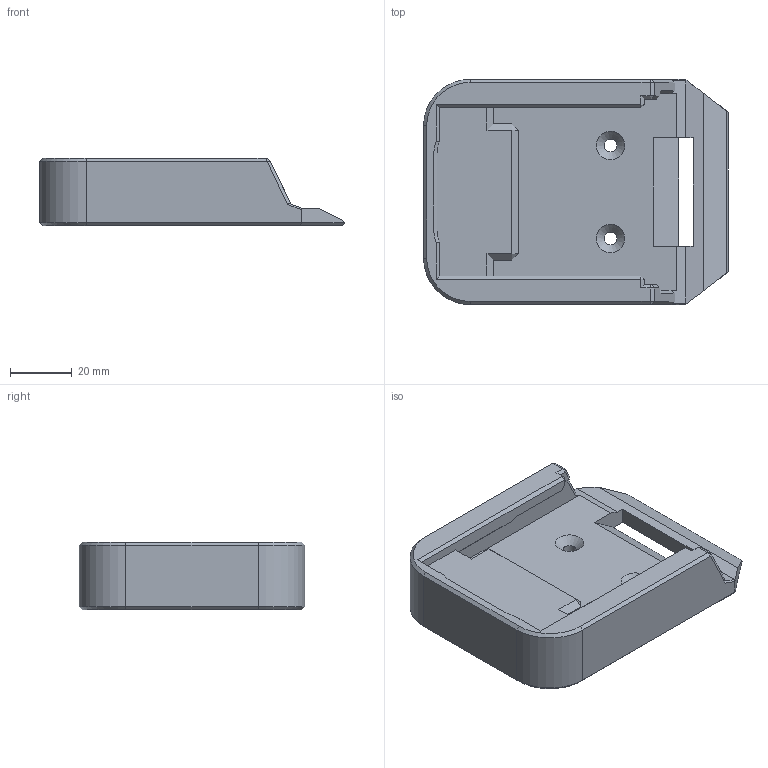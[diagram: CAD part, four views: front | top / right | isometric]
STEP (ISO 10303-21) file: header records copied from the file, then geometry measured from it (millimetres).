
FILE_DESCRIPTION(/* description */ (''),/* implementation_level */ '2;1');
FILE_NAME(/* name */ 'D:/A/Models/Makita Battery Holder.step',/* time_stamp */ '2020-03-16T16:56:40+03:00',/* author */ (''),/* organization */ (''),/* preprocessor_version */ 'ST-DEVELOPER v18',/* originating_system */ 'Autodesk Translation Framework v8.12.0.6',/* authorisation */ '');
FILE_SCHEMA (('AUTOMOTIVE_DESIGN { 1 0 10303 214 3 1 1 }'));
Length unit declared in the file: millimetre
Products named in the file (2): Makita Wall Holder; Makita Battery Holder
Assembly tree (1 placements, depth 2):
  Makita Wall Holder
    Makita Battery Holder
Bounding box: 98.38 x 72.7 x 21.8 mm (x, y, z)
Volume: 75748 mm3; surface area: 22315.2 mm2
Topology: 1 solids, 1 shells, 125 faces, 306 edges, 182 vertices
Faces by surface type: plane 105, cone 12, cylinder 8
Full cylindrical faces by diameter (mm): 4.2 x2
Entity records: 3623 total; most frequent: CARTESIAN_POINT 640, ORIENTED_EDGE 612, DIRECTION 588, EDGE_CURVE 306, LINE 272, VECTOR 272, VERTEX_POINT 182, AXIS2_PLACEMENT_3D 158
